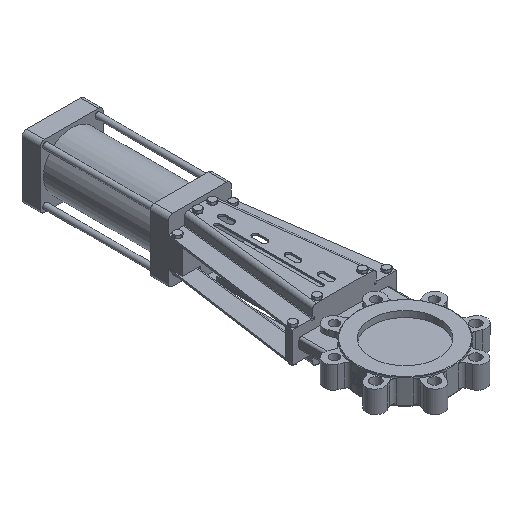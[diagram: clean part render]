
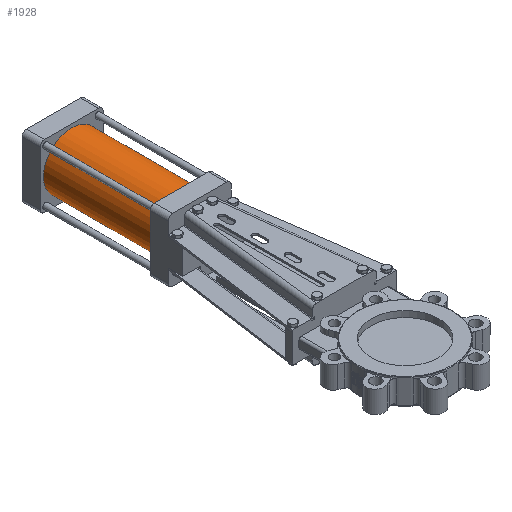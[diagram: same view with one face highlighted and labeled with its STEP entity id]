
A CAD part, isometric view. The second image highlights one B-rep face of the part: STEP entity #1928.
In plain terms, the highlighted cylindrical face has radius 62.5 mm (diameter 125 mm), a full revolution.
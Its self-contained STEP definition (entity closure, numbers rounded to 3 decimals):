
#1928=ADVANCED_FACE('',(#9310,#9312),#9314,.T.);
#9310=FACE_OUTER_BOUND('',#9311,.T.);
#9311=EDGE_LOOP('',(#15160));
#9312=FACE_OUTER_BOUND('',#9313,.T.);
#9313=EDGE_LOOP('',(#15161));
#9314=CYLINDRICAL_SURFACE('',#9315,62.5);
#9315=AXIS2_PLACEMENT_3D('',#9316,#9317,#9318);
#9316=CARTESIAN_POINT('',(0.,496.,0.));
#9317=DIRECTION('',(0.,1.,0.));
#9318=DIRECTION('',(0.,0.,1.));
#15160=ORIENTED_EDGE('',*,*,#19348,.F.);
#15161=ORIENTED_EDGE('',*,*,#18788,.T.);
#18788=EDGE_CURVE('',#21151,#21151,#21152,.T.);
#19348=EDGE_CURVE('',#22149,#22149,#22150,.T.);
#21151=VERTEX_POINT('',#25406);
#21152=CIRCLE('',#25407,62.5);
#22149=VERTEX_POINT('',#31681);
#22150=CIRCLE('',#31682,62.5);
#25406=CARTESIAN_POINT('',(0.,496.,62.5));
#25407=AXIS2_PLACEMENT_3D('',#25408,#25409,#25410);
#25408=CARTESIAN_POINT('',(0.,496.,0.));
#25409=DIRECTION('',(0.,1.,0.));
#25410=DIRECTION('',(0.,0.,1.));
#31681=CARTESIAN_POINT('',(0.,740.,62.5));
#31682=AXIS2_PLACEMENT_3D('',#31683,#31684,#31685);
#31683=CARTESIAN_POINT('',(0.,740.,0.));
#31684=DIRECTION('',(0.,1.,0.));
#31685=DIRECTION('',(0.,0.,1.));
